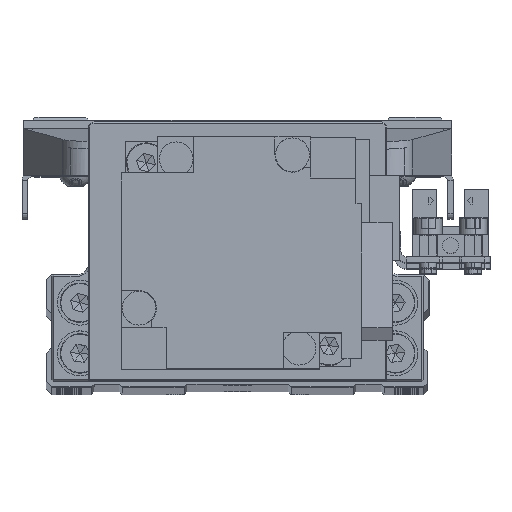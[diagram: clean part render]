
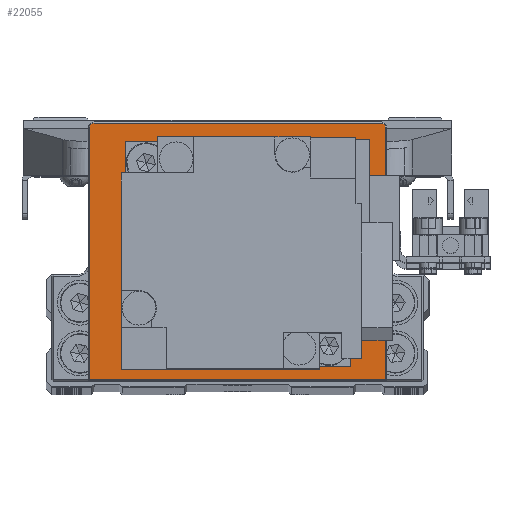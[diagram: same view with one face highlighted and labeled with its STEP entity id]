
A CAD part, top view. The second image highlights one B-rep face of the part: STEP entity #22055.
In plain terms, the highlighted planar face has unit normal (0, 0, 1) as drawn and (0, -1, 0) by its records, which use the part's own axes.
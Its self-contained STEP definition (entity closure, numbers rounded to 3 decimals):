
#30 = ORIENTED_EDGE ( 'NONE', *, *, #34344, .T. ) ;
#394 = CARTESIAN_POINT ( 'NONE',  ( -26.3, -4., 22. ) ) ;
#543 = CIRCLE ( 'NONE', #23292, 0.8 ) ;
#554 = LINE ( 'NONE', #12977, #33974 ) ;
#2548 = FACE_OUTER_BOUND ( 'NONE', #35205, .T. ) ;
#2571 = CARTESIAN_POINT ( 'NONE',  ( 26.3, -4., 22. ) ) ;
#2633 = CARTESIAN_POINT ( 'NONE',  ( -26.3, -4., -23. ) ) ;
#3528 = CARTESIAN_POINT ( 'NONE',  ( -25.5, -4., 22. ) ) ;
#4906 = CARTESIAN_POINT ( 'NONE',  ( -25.5, -4., 22.8 ) ) ;
#7135 = CARTESIAN_POINT ( 'NONE',  ( 26.3, -4., 22. ) ) ;
#7440 = LINE ( 'NONE', #19848, #11117 ) ;
#10630 = CARTESIAN_POINT ( 'NONE',  ( 25.5, -4., 22. ) ) ;
#11117 = VECTOR ( 'NONE', #32266, 1000. ) ;
#11907 = DIRECTION ( 'NONE',  ( 0., 0., -1. ) ) ;
#12977 = CARTESIAN_POINT ( 'NONE',  ( -25.5, -4., 22.8 ) ) ;
#14531 = ORIENTED_EDGE ( 'NONE', *, *, #33420, .T. ) ;
#14962 = PLANE ( 'NONE',  #22168 ) ;
#15039 = DIRECTION ( 'NONE',  ( 0., 0., -1. ) ) ;
#15840 = ORIENTED_EDGE ( 'NONE', *, *, #35808, .T. ) ;
#15938 = DIRECTION ( 'NONE',  ( 0., -1., 0. ) ) ;
#16448 = CIRCLE ( 'NONE', #39232, 0.8 ) ;
#16462 = ORIENTED_EDGE ( 'NONE', *, *, #34159, .T. ) ;
#18525 = ORIENTED_EDGE ( 'NONE', *, *, #37227, .T. ) ;
#19550 = DIRECTION ( 'NONE',  ( 0., 0., 1. ) ) ;
#19790 = VERTEX_POINT ( 'NONE', #34440 ) ;
#19848 = CARTESIAN_POINT ( 'NONE',  ( 26.5, -4., -22.8 ) ) ;
#22055 = ADVANCED_FACE ( 'NONE', ( #2548 ), #14962, .T. ) ;
#22168 = AXIS2_PLACEMENT_3D ( 'NONE', #27357, #39813, #11907 ) ;
#22716 = VERTEX_POINT ( 'NONE', #4906 ) ;
#22951 = VERTEX_POINT ( 'NONE', #394 ) ;
#23041 = DIRECTION ( 'NONE',  ( 0., -1., 0. ) ) ;
#23292 = AXIS2_PLACEMENT_3D ( 'NONE', #10630, #23041, #35491 ) ;
#24873 = VERTEX_POINT ( 'NONE', #2571 ) ;
#25390 = DIRECTION ( 'NONE',  ( -1., 0., 0. ) ) ;
#27357 = CARTESIAN_POINT ( 'NONE',  ( 0., -4., 0. ) ) ;
#27713 = VERTEX_POINT ( 'NONE', #31053 ) ;
#28336 = DIRECTION ( 'NONE',  ( 0., 0., -1. ) ) ;
#30502 = LINE ( 'NONE', #2633, #39911 ) ;
#31053 = CARTESIAN_POINT ( 'NONE',  ( 25.5, -4., 22.8 ) ) ;
#32069 = EDGE_CURVE ( 'NONE', #19790, #36083, #7440, .T. ) ;
#32266 = DIRECTION ( 'NONE',  ( 1., 0., 0. ) ) ;
#33420 = EDGE_CURVE ( 'NONE', #27713, #22716, #554, .T. ) ;
#33974 = VECTOR ( 'NONE', #25390, 1000. ) ;
#34159 = EDGE_CURVE ( 'NONE', #22716, #22951, #16448, .T. ) ;
#34276 = VECTOR ( 'NONE', #19550, 1000. ) ;
#34344 = EDGE_CURVE ( 'NONE', #22951, #19790, #30502, .T. ) ;
#34440 = CARTESIAN_POINT ( 'NONE',  ( -26.3, -4., -22.8 ) ) ;
#35038 = LINE ( 'NONE', #7135, #34276 ) ;
#35205 = EDGE_LOOP ( 'NONE', ( #38354, #15840, #18525, #14531, #16462, #30 ) ) ;
#35491 = DIRECTION ( 'NONE',  ( 0., 0., -1. ) ) ;
#35808 = EDGE_CURVE ( 'NONE', #36083, #24873, #35038, .T. ) ;
#36083 = VERTEX_POINT ( 'NONE', #36849 ) ;
#36849 = CARTESIAN_POINT ( 'NONE',  ( 26.3, -4., -22.8 ) ) ;
#37227 = EDGE_CURVE ( 'NONE', #24873, #27713, #543, .T. ) ;
#38354 = ORIENTED_EDGE ( 'NONE', *, *, #32069, .T. ) ;
#39232 = AXIS2_PLACEMENT_3D ( 'NONE', #3528, #15938, #28336 ) ;
#39813 = DIRECTION ( 'NONE',  ( 0., -1., 0. ) ) ;
#39911 = VECTOR ( 'NONE', #15039, 1000. ) ;
